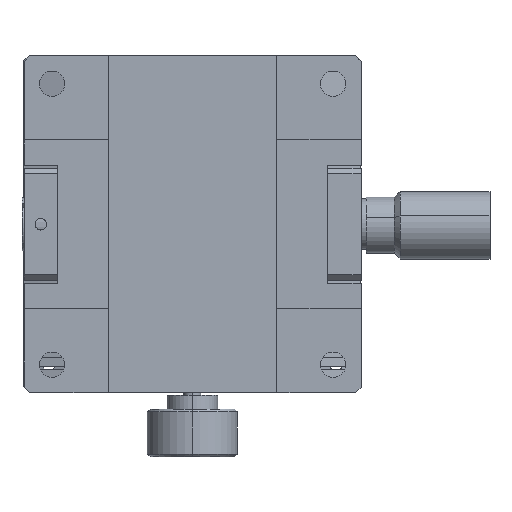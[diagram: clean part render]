
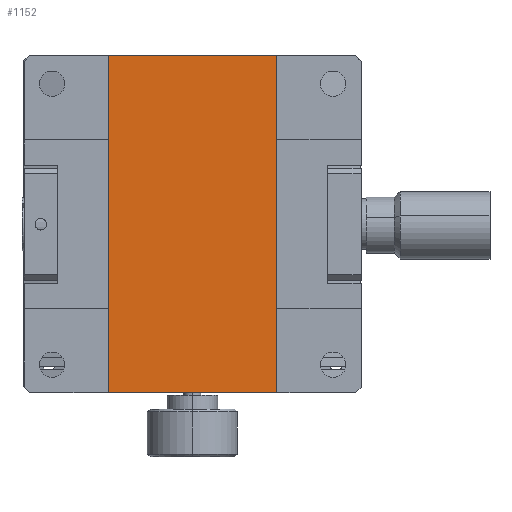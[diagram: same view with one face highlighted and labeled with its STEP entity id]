
A CAD part, front view. The second image highlights one B-rep face of the part: STEP entity #1152.
In plain terms, the highlighted planar face has unit normal (0, -1, 0).
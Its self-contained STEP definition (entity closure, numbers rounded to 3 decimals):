
#1053 = EDGE_CURVE ( 'NONE', #1606, #1607, #5645, .T. ) ;
#1055 = EDGE_CURVE ( 'NONE', #1607, #1608, #5651, .T. ) ;
#1057 = EDGE_CURVE ( 'NONE', #1608, #1609, #5657, .T. ) ;
#1059 = EDGE_CURVE ( 'NONE', #1609, #1606, #5663, .T. ) ;
#1152 = ADVANCED_FACE ( 'NONE', ( #6778 ), #6215, .F. ) ;
#1571 = EDGE_LOOP ( 'NONE', ( #1820, #1821, #1822, #1819 ) ) ;
#1606 = VERTEX_POINT ( 'NONE', #7130 ) ;
#1607 = VERTEX_POINT ( 'NONE', #7131 ) ;
#1608 = VERTEX_POINT ( 'NONE', #7132 ) ;
#1609 = VERTEX_POINT ( 'NONE', #7133 ) ;
#1819 = ORIENTED_EDGE ( 'NONE', *, *, #1059, .F. ) ;
#1820 = ORIENTED_EDGE ( 'NONE', *, *, #1057, .F. ) ;
#1821 = ORIENTED_EDGE ( 'NONE', *, *, #1055, .F. ) ;
#1822 = ORIENTED_EDGE ( 'NONE', *, *, #1053, .F. ) ;
#4690 = VECTOR ( 'NONE', #5647, 1000. ) ;
#4692 = VECTOR ( 'NONE', #5653, 1000. ) ;
#4694 = VECTOR ( 'NONE', #5659, 1000. ) ;
#4696 = VECTOR ( 'NONE', #5665, 1000. ) ;
#5645 = LINE ( 'NONE', #5646, #4690 ) ;
#5646 = CARTESIAN_POINT ( 'NONE',  ( -15., 1., 30. ) ) ;
#5647 = DIRECTION ( 'NONE',  ( 1., 0., 0. ) ) ;
#5651 = LINE ( 'NONE', #5652, #4692 ) ;
#5652 = CARTESIAN_POINT ( 'NONE',  ( 15., 1., -30. ) ) ;
#5653 = DIRECTION ( 'NONE',  ( 0., 0., -1. ) ) ;
#5657 = LINE ( 'NONE', #5658, #4694 ) ;
#5658 = CARTESIAN_POINT ( 'NONE',  ( -15., 1., -30. ) ) ;
#5659 = DIRECTION ( 'NONE',  ( -1., 0., 0. ) ) ;
#5663 = LINE ( 'NONE', #5664, #4696 ) ;
#5664 = CARTESIAN_POINT ( 'NONE',  ( -15., 1., -30. ) ) ;
#5665 = DIRECTION ( 'NONE',  ( 0., 0., 1. ) ) ;
#6215 = PLANE ( 'NONE',  #6785 ) ;
#6216 = CARTESIAN_POINT ( 'NONE',  ( -15., 1., -30. ) ) ;
#6217 = DIRECTION ( 'NONE',  ( 0., 1., 0. ) ) ;
#6218 = DIRECTION ( 'NONE',  ( 0., 0., 1. ) ) ;
#6778 = FACE_OUTER_BOUND ( 'NONE', #1571, .T. ) ;
#6785 = AXIS2_PLACEMENT_3D ( 'NONE', #6216, #6217, #6218 ) ;
#7130 = CARTESIAN_POINT ( 'NONE',  ( -15., 1., 30. ) ) ;
#7131 = CARTESIAN_POINT ( 'NONE',  ( 15., 1., 30. ) ) ;
#7132 = CARTESIAN_POINT ( 'NONE',  ( 15., 1., -30. ) ) ;
#7133 = CARTESIAN_POINT ( 'NONE',  ( -15., 1., -30. ) ) ;
